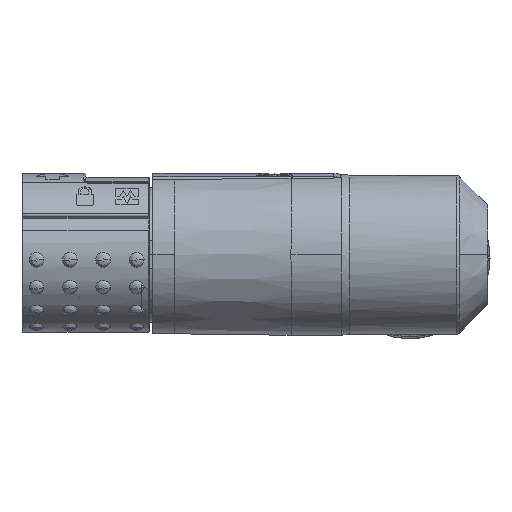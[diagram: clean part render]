
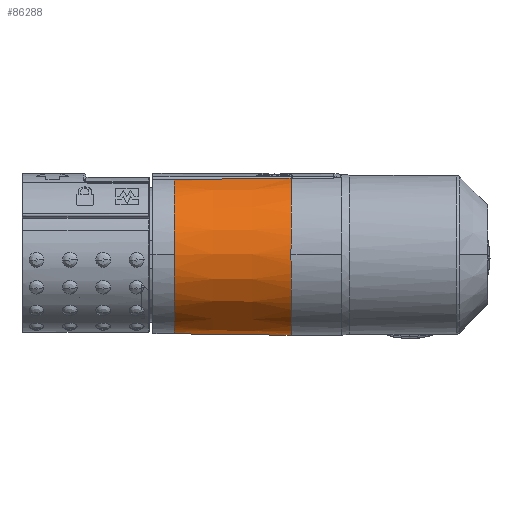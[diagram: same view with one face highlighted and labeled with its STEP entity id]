
A CAD part, top view. The second image highlights one B-rep face of the part: STEP entity #86288.
In plain terms, the highlighted conical face has half-angle 0.728 degrees and reference radius 10.66 mm.
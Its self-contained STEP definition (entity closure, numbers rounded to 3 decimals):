
#1385 = EDGE_LOOP ( 'NONE', ( #83656, #65925, #22216, #86883, #58788, #38142, #11741, #82651, #11031 ) ) ;
#2082 = CARTESIAN_POINT ( 'NONE',  ( -61.158, 3.316, 10.678 ) ) ;
#3057 = CARTESIAN_POINT ( 'NONE',  ( -76.888, -2.353, 7.185 ) ) ;
#5179 = CARTESIAN_POINT ( 'NONE',  ( -76.888, -4.703, 2.789 ) ) ;
#5587 = CARTESIAN_POINT ( 'NONE',  ( -61.158, -5.259, 1.116 ) ) ;
#6059 = AXIS2_PLACEMENT_3D ( 'NONE', #86015, #24106, #16845 ) ;
#6068 = EDGE_CURVE ( 'NONE', #54688, #52215, #44920, .T. ) ;
#6743 = CARTESIAN_POINT ( 'NONE',  ( -61.158, 10.058, 9.969 ) ) ;
#7246 = LINE ( 'NONE', #36738, #88464 ) ;
#8049 = CARTESIAN_POINT ( 'NONE',  ( -63.969, 15.905, 3.315 ) ) ;
#8658 = CARTESIAN_POINT ( 'NONE',  ( -76.888, 15.381, 4.383 ) ) ;
#8903 = CARTESIAN_POINT ( 'NONE',  ( -61.158, 0.114, 9.441 ) ) ;
#9284 = EDGE_CURVE ( 'NONE', #57028, #16863, #10036, .T. ) ;
#9540 = CARTESIAN_POINT ( 'NONE',  ( -76.888, 12.755, 7.98 ) ) ;
#9900 = EDGE_CURVE ( 'NONE', #77739, #16863, #31602, .T. ) ;
#10036 = B_SPLINE_CURVE_WITH_KNOTS ( 'NONE', 3,
 ( #42679, #15884, #71326, #83701, #57666, #9540, #49964, #85519, #8658, #63174 ),
 .UNSPECIFIED., .F., .F.,
 ( 4, 2, 2, 2, 4 ),
 ( 0., 0.25, 0.5, 0.75, 1. ),
 .UNSPECIFIED. ) ;
#11031 = ORIENTED_EDGE ( 'NONE', *, *, #24640, .T. ) ;
#11741 = ORIENTED_EDGE ( 'NONE', *, *, #9900, .T. ) ;
#11840 = B_SPLINE_CURVE_WITH_KNOTS ( 'NONE', 3,
 ( #42020, #56101, #21623, #22521, #15678, #8903, #55657, #2082, #77080, #42481 ),
 .UNSPECIFIED., .F., .F.,
 ( 4, 2, 2, 2, 4 ),
 ( 0.549, 0.599, 0.65, 0.7, 0.75 ),
 .UNSPECIFIED. ) ;
#11949 = CARTESIAN_POINT ( 'NONE',  ( -61.158, -4.747, 3.295 ) ) ;
#13765 = CARTESIAN_POINT ( 'NONE',  ( -76.888, -5.059, 0. ) ) ;
#14736 = VERTEX_POINT ( 'NONE', #70619 ) ;
#14765 = CARTESIAN_POINT ( 'NONE',  ( -61.158, -5.259, 0. ) ) ;
#14903 = CARTESIAN_POINT ( 'NONE',  ( -74.833, 15.756, 3.325 ) ) ;
#15590 = B_SPLINE_CURVE_WITH_KNOTS ( 'NONE', 3,
 ( #62998, #8049, #71147, #28459 ),
 .UNSPECIFIED., .F., .F.,
 ( 4, 4 ),
 ( 0., 1. ),
 .UNSPECIFIED. ) ;
#15678 = CARTESIAN_POINT ( 'NONE',  ( -61.158, -1.731, 8.093 ) ) ;
#15884 = CARTESIAN_POINT ( 'NONE',  ( -76.888, 6.714, 10.66 ) ) ;
#16662 = CARTESIAN_POINT ( 'NONE',  ( -76.888, 0.25, 9.287 ) ) ;
#16845 = DIRECTION ( 'NONE',  ( 0., -1., 0. ) ) ;
#16863 = VERTEX_POINT ( 'NONE', #71459 ) ;
#17548 = CARTESIAN_POINT ( 'NONE',  ( -76.888, 5.601, 10.66 ) ) ;
#18842 = EDGE_CURVE ( 'NONE', #54688, #77739, #15590, .T. ) ;
#21623 = CARTESIAN_POINT ( 'NONE',  ( -61.158, -3.881, 5.417 ) ) ;
#22216 = ORIENTED_EDGE ( 'NONE', *, *, #32009, .F. ) ;
#22521 = CARTESIAN_POINT ( 'NONE',  ( -61.158, -2.546, 7.272 ) ) ;
#23491 = CARTESIAN_POINT ( 'NONE',  ( -76.888, -4.18, 4.383 ) ) ;
#24106 = DIRECTION ( 'NONE',  ( 1., 0., 0. ) ) ;
#24640 = EDGE_CURVE ( 'NONE', #57028, #55827, #72709, .T. ) ;
#25477 = B_SPLINE_CURVE_WITH_KNOTS ( 'NONE', 3,
 ( #66953, #5179, #27380, #26048, #55074, #13765 ),
 .UNSPECIFIED., .F., .F.,
 ( 4, 2, 4 ),
 ( 0.95, 0.975, 1. ),
 .UNSPECIFIED. ) ;
#26048 = CARTESIAN_POINT ( 'NONE',  ( -76.888, -5.015, 1.127 ) ) ;
#27380 = CARTESIAN_POINT ( 'NONE',  ( -76.888, -4.837, 2.24 ) ) ;
#27618 = CARTESIAN_POINT ( 'NONE',  ( -61.166, 5.601, 10.86 ) ) ;
#28459 = CARTESIAN_POINT ( 'NONE',  ( -70.725, 15.812, 3.322 ) ) ;
#29850 = CARTESIAN_POINT ( 'NONE',  ( -76.888, 4.487, 10.66 ) ) ;
#31602 = B_SPLINE_CURVE_WITH_KNOTS ( 'NONE', 3,
 ( #36715, #49864, #14903, #85414 ),
 .UNSPECIFIED., .F., .F.,
 ( 4, 4 ),
 ( 0., 1. ),
 .UNSPECIFIED. ) ;
#31667 = CARTESIAN_POINT ( 'NONE',  ( -76.888, 3.374, 10.484 ) ) ;
#32009 = EDGE_CURVE ( 'NONE', #14736, #57919, #78079, .T. ) ;
#32698 = CARTESIAN_POINT ( 'NONE',  ( -61.158, 13.747, 7.272 ) ) ;
#33325 = VERTEX_POINT ( 'NONE', #59456 ) ;
#33441 = CARTESIAN_POINT ( 'NONE',  ( -70.725, 15.812, 3.322 ) ) ;
#33916 = EDGE_CURVE ( 'NONE', #55827, #33325, #25477, .T. ) ;
#34459 = CARTESIAN_POINT ( 'NONE',  ( -61.158, 7.886, 10.678 ) ) ;
#36715 = CARTESIAN_POINT ( 'NONE',  ( -70.725, 15.812, 3.322 ) ) ;
#36738 = CARTESIAN_POINT ( 'NONE',  ( -76.888, -5.059, 0. ) ) ;
#38142 = ORIENTED_EDGE ( 'NONE', *, *, #18842, .T. ) ;
#42020 = CARTESIAN_POINT ( 'NONE',  ( -61.158, -4.747, 3.295 ) ) ;
#42481 = CARTESIAN_POINT ( 'NONE',  ( -61.166, 5.601, 10.86 ) ) ;
#42679 = CARTESIAN_POINT ( 'NONE',  ( -76.888, 5.601, 10.66 ) ) ;
#44920 = B_SPLINE_CURVE_WITH_KNOTS ( 'NONE', 3,
 ( #68517, #61716, #54856, #32698, #68963, #82703, #6743, #34459, #89985, #27618 ),
 .UNSPECIFIED., .F., .F.,
 ( 4, 2, 2, 2, 4 ),
 ( 0., 0.056, 0.111, 0.167, 0.223 ),
 .UNSPECIFIED. ) ;
#46619 = CONICAL_SURFACE ( 'NONE', #6059, 10.66, 0.013 ) ;
#46892 = CARTESIAN_POINT ( 'NONE',  ( -61.158, -5.259, 0. ) ) ;
#49864 = CARTESIAN_POINT ( 'NONE',  ( -72.779, 15.784, 3.325 ) ) ;
#49964 = CARTESIAN_POINT ( 'NONE',  ( -76.888, 13.554, 7.185 ) ) ;
#52215 = VERTEX_POINT ( 'NONE', #71070 ) ;
#54652 = CARTESIAN_POINT ( 'NONE',  ( -61.158, 15.949, 3.295 ) ) ;
#54688 = VERTEX_POINT ( 'NONE', #54652 ) ;
#54856 = CARTESIAN_POINT ( 'NONE',  ( -61.158, 15.082, 5.417 ) ) ;
#55074 = CARTESIAN_POINT ( 'NONE',  ( -76.888, -5.059, 0.563 ) ) ;
#55657 = CARTESIAN_POINT ( 'NONE',  ( -61.158, 1.143, 9.969 ) ) ;
#55827 = VERTEX_POINT ( 'NONE', #71438 ) ;
#56101 = CARTESIAN_POINT ( 'NONE',  ( -61.158, -4.401, 4.384 ) ) ;
#57028 = VERTEX_POINT ( 'NONE', #73494 ) ;
#57666 = CARTESIAN_POINT ( 'NONE',  ( -76.888, 10.951, 9.287 ) ) ;
#57919 = VERTEX_POINT ( 'NONE', #14765 ) ;
#58788 = ORIENTED_EDGE ( 'NONE', *, *, #6068, .F. ) ;
#59347 = CARTESIAN_POINT ( 'NONE',  ( -76.888, -4.528, 3.325 ) ) ;
#59456 = CARTESIAN_POINT ( 'NONE',  ( -76.888, -5.059, 0. ) ) ;
#61716 = CARTESIAN_POINT ( 'NONE',  ( -61.158, 15.602, 4.384 ) ) ;
#62639 = DIRECTION ( 'NONE',  ( 1., -0.013, 0. ) ) ;
#62998 = CARTESIAN_POINT ( 'NONE',  ( -61.158, 15.949, 3.295 ) ) ;
#63174 = CARTESIAN_POINT ( 'NONE',  ( -76.888, 15.729, 3.325 ) ) ;
#65925 = ORIENTED_EDGE ( 'NONE', *, *, #82865, .T. ) ;
#66953 = CARTESIAN_POINT ( 'NONE',  ( -76.888, -4.528, 3.325 ) ) ;
#68517 = CARTESIAN_POINT ( 'NONE',  ( -61.158, 15.949, 3.295 ) ) ;
#68963 = CARTESIAN_POINT ( 'NONE',  ( -61.158, 12.932, 8.093 ) ) ;
#70619 = CARTESIAN_POINT ( 'NONE',  ( -61.158, -4.747, 3.295 ) ) ;
#71070 = CARTESIAN_POINT ( 'NONE',  ( -61.166, 5.601, 10.86 ) ) ;
#71147 = CARTESIAN_POINT ( 'NONE',  ( -67.161, 15.859, 3.325 ) ) ;
#71190 = CARTESIAN_POINT ( 'NONE',  ( -76.888, -3.666, 5.386 ) ) ;
#71326 = CARTESIAN_POINT ( 'NONE',  ( -76.888, 7.828, 10.484 ) ) ;
#71438 = CARTESIAN_POINT ( 'NONE',  ( -76.888, -4.528, 3.325 ) ) ;
#71459 = CARTESIAN_POINT ( 'NONE',  ( -76.888, 15.729, 3.325 ) ) ;
#72709 = B_SPLINE_CURVE_WITH_KNOTS ( 'NONE', 3,
 ( #17548, #29850, #31667, #78507, #16662, #79420, #3057, #71190, #23491, #59347 ),
 .UNSPECIFIED., .F., .F.,
 ( 4, 2, 2, 2, 4 ),
 ( 0.75, 0.8, 0.85, 0.9, 0.95 ),
 .UNSPECIFIED. ) ;
#73494 = CARTESIAN_POINT ( 'NONE',  ( -76.888, 5.601, 10.66 ) ) ;
#75141 = EDGE_CURVE ( 'NONE', #14736, #52215, #11840, .T. ) ;
#77080 = CARTESIAN_POINT ( 'NONE',  ( -61.158, 4.458, 10.86 ) ) ;
#77739 = VERTEX_POINT ( 'NONE', #33441 ) ;
#78079 = B_SPLINE_CURVE_WITH_KNOTS ( 'NONE', 3,
 ( #11949, #87506, #5587, #46892 ),
 .UNSPECIFIED., .F., .F.,
 ( 4, 4 ),
 ( 0., 0.5 ),
 .UNSPECIFIED. ) ;
#78507 = CARTESIAN_POINT ( 'NONE',  ( -76.888, 1.255, 9.797 ) ) ;
#79420 = CARTESIAN_POINT ( 'NONE',  ( -76.888, -1.554, 7.98 ) ) ;
#80061 = FACE_OUTER_BOUND ( 'NONE', #1385, .T. ) ;
#82651 = ORIENTED_EDGE ( 'NONE', *, *, #9284, .F. ) ;
#82703 = CARTESIAN_POINT ( 'NONE',  ( -61.158, 11.087, 9.441 ) ) ;
#82865 = EDGE_CURVE ( 'NONE', #33325, #57919, #7246, .T. ) ;
#83656 = ORIENTED_EDGE ( 'NONE', *, *, #33916, .T. ) ;
#83701 = CARTESIAN_POINT ( 'NONE',  ( -76.888, 9.946, 9.797 ) ) ;
#85414 = CARTESIAN_POINT ( 'NONE',  ( -76.888, 15.729, 3.325 ) ) ;
#85519 = CARTESIAN_POINT ( 'NONE',  ( -76.888, 14.867, 5.386 ) ) ;
#86015 = CARTESIAN_POINT ( 'NONE',  ( -76.888, 5.601, 0. ) ) ;
#86288 = ADVANCED_FACE ( 'NONE', ( #80061 ), #46619, .T. ) ;
#86883 = ORIENTED_EDGE ( 'NONE', *, *, #75141, .T. ) ;
#87506 = CARTESIAN_POINT ( 'NONE',  ( -61.158, -5.086, 2.232 ) ) ;
#88464 = VECTOR ( 'NONE', #62639, 1000. ) ;
#89985 = CARTESIAN_POINT ( 'NONE',  ( -61.158, 6.743, 10.86 ) ) ;
